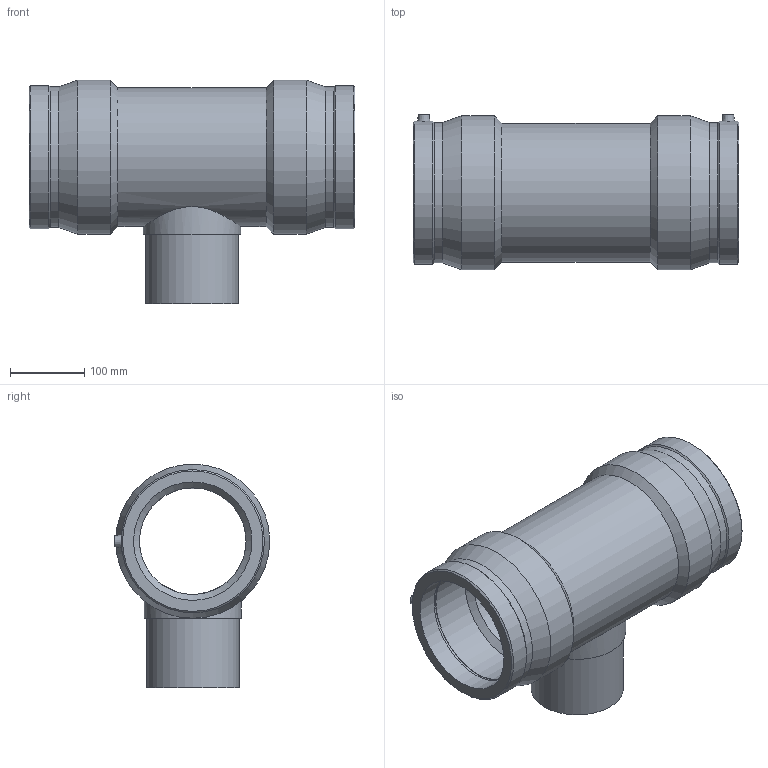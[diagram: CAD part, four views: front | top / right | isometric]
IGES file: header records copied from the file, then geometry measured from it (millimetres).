
Global section: file name: 491404160125.ipt; native system: Autodesk Inventor 2015; preprocessor: unknown; author: KIM; date: 20171106.093856; units: millimetre
Bounding box: 440 x 210 x 302 mm (x, y, z)
Volume: 5539793.7 mm3; surface area: 578996.2 mm2
Topology: 1 solids, 1 shells, 45 faces, 101 edges, 66 vertices
Faces by surface type: plane 12, revolution 12, cylinder 11, cone 10
Full cylindrical faces by diameter (mm): 4 x2, 125 x1, 131.25 x1, 187.2 x1, 189.571 x2, 193.44 x2, 208 x2
